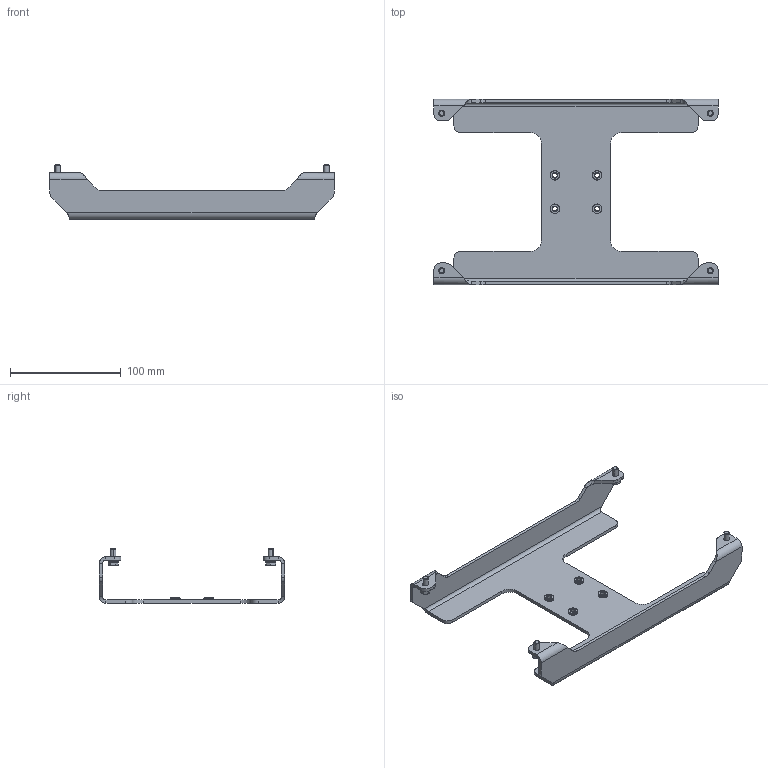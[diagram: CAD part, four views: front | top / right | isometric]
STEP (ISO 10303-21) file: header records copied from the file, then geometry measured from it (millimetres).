
FILE_DESCRIPTION (( 'STEP AP214' ), '1' );
FILE_NAME ('M810 Ram Mount.STEP', '2024-07-16T14:21:38', ( '' ), ( '' ), 'SwSTEP 2.0', 'SolidWorks 2022', '' );
FILE_SCHEMA (( 'AUTOMOTIVE_DESIGN' ));
Length unit declared in the file: millimetre
Products named in the file (5): 025-1032-02 M810 Ram Mount Frame; Ram Mount Fixing Sub-Asm_12 4017; Nord_Lock_Washer_M5_NLDP5; M810 Ram Mount; ISO 4017 - M5 x 12-N_ISO 4017 - M5 x 12-N
Assembly tree (7 placements, depth 3):
  M810 Ram Mount
    Ram Mount Fixing Sub-Asm_12 4017  x4
      Nord_Lock_Washer_M5_NLDP5
      ISO 4017 - M5 x 12-N_ISO 4017 - M5 x 12-N
    025-1032-02 M810 Ram Mount Frame
Bounding box: 256 x 167 x 49.2 mm (x, y, z)
Volume: 102539.7 mm3; surface area: 74888.8 mm2
Topology: 17 solids, 17 shells, 2758 faces, 7008 edges, 4280 vertices
Faces by surface type: plane 2482, cylinder 164, cone 96, torus 8, bspline 8
Entity records: 26325 total; most frequent: CARTESIAN_POINT 5138, DIRECTION 4376, ORIENTED_EDGE 4368, EDGE_CURVE 2184, LINE 1564, VECTOR 1564, AXIS2_PLACEMENT_3D 1406, VERTEX_POINT 1322
